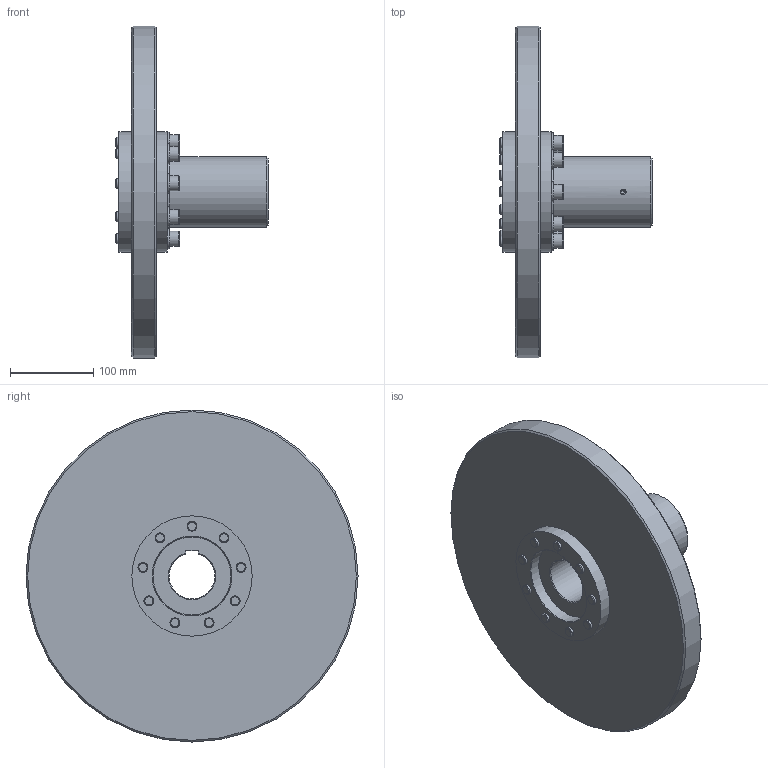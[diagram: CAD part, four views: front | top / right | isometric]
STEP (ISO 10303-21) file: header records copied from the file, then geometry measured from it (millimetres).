
FILE_DESCRIPTION(/* description */ (''),/* implementation_level */ '2;1');
FILE_NAME(/* name */ 'C:\Users\milman01\Desktop\step file\xxxxxx\46804.stp',/* time_stamp */ '2017-03-15T12:16:05+01:00',/* author */ ('milman01'),/* organization */ ('Hillmar Industries Ltd.'),/* preprocessor_version */ 'ST-DEVELOPER v16.1',/* originating_system */ 'Autodesk Inventor 2016',/* authorisation */ '');
FILE_SCHEMA (('AUTOMOTIVE_DESIGN { 1 0 10303 214 3 1 1 }'));
Length unit declared in the file: millimetre
Products named in the file (1): 46804_Shrinkwrap_1
Bounding box: 184 x 400 x 400 mm (x, y, z)
Volume: 4447932 mm3; surface area: 408308.6 mm2
Topology: 1 solids, 12 shells, 240 faces, 518 edges, 332 vertices
Faces by surface type: plane 123, cylinder 56, cone 50, torus 11
Full cylindrical faces by diameter (mm): 6.647 x1, 12 x18, 13 x9, 18 x9, 24 x9, 85 x1, 95 x3, 145 x2, 400 x1
Entity records: 5849 total; most frequent: CARTESIAN_POINT 1062, DIRECTION 950, ORIENTED_EDGE 732, AXIS2_PLACEMENT_3D 407, EDGE_LOOP 406, EDGE_CURVE 366, VERTEX_POINT 292, STYLED_ITEM 241
